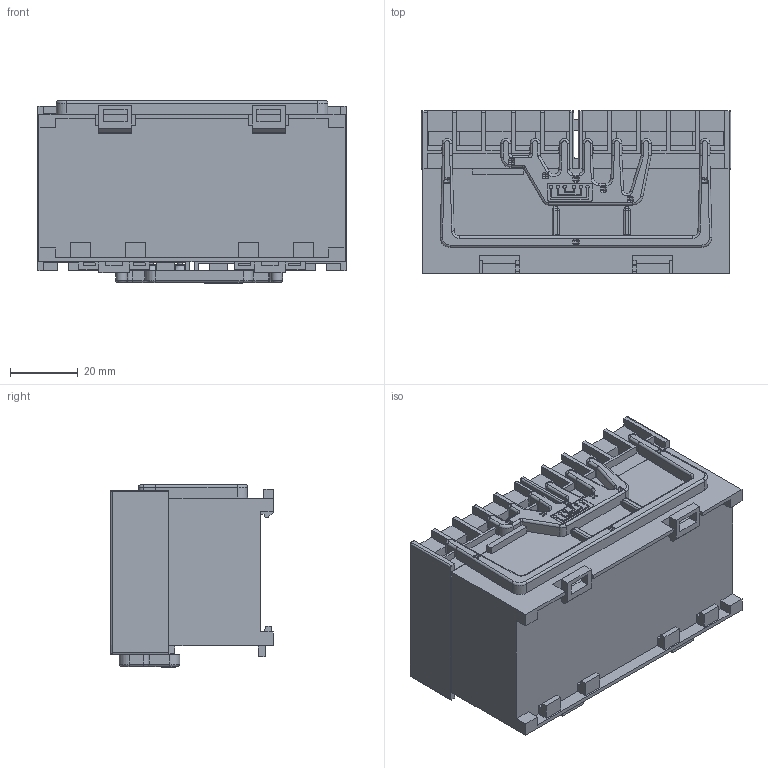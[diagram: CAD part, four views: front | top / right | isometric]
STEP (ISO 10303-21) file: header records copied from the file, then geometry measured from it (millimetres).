
FILE_DESCRIPTION (( 'STEP AP203' ), '1' );
FILE_NAME ('K1_W_07_09_12.STEP', '2014-04-29T09:18:11', ( '' ), ( '' ), 'SwSTEP 2.0', 'SolidWorks 2014', '' );
FILE_SCHEMA (( 'CONFIG_CONTROL_DESIGN' ));
Length unit declared in the file: millimetre
Products named in the file (14): 65108; 65106; 65109; 65110; 65105; 65111; K1_W_07_09_12; 65114; 65115; K1 W Unterteil; 65107; K1 Oberteil
Assembly tree (14 placements, depth 3):
  K1_W_07_09_12
    K1 W Unterteil
    K1 Oberteil  x2
    65106
      65106
      65110
      65111
      65114
      65115
    65105
      65105
      65107
      65108
      65109
Bounding box: 91.3 x 48 x 53.8 mm (x, y, z)
Volume: 173268.7 mm3; surface area: 47748.7 mm2
Topology: 12 solids, 12 shells, 1903 faces, 5017 edges, 3193 vertices
Faces by surface type: plane 950, cylinder 569, torus 254, bspline 126, sphere 4
Entity records: 61302 total; most frequent: CARTESIAN_POINT 17380, ORIENTED_EDGE 9012, DIRECTION 8737, EDGE_CURVE 4506, AXIS2_PLACEMENT_3D 3029, VERTEX_POINT 2860, LINE 2679, VECTOR 2679
